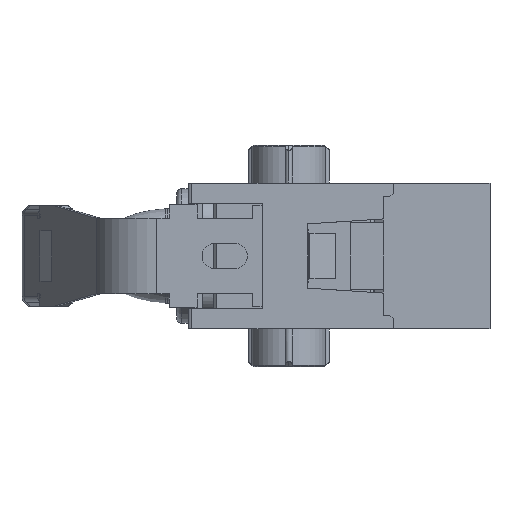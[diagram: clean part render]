
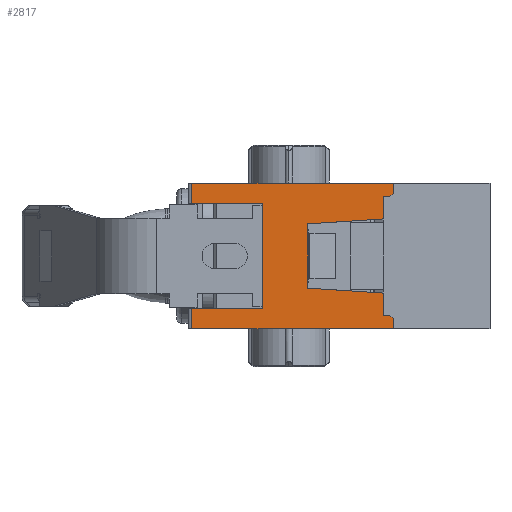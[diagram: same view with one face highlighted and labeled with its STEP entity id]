
A CAD part, left-side view. The second image highlights one B-rep face of the part: STEP entity #2817.
In plain terms, the highlighted planar face has unit normal (-1, 0, 0).
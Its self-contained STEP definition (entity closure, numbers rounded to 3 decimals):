
#71 = DIRECTION ( 'NONE',  ( 0., -0.998, 0.067 ) ) ;
#72 = VECTOR ( 'NONE', #71, 1000. ) ;
#73 = CARTESIAN_POINT ( 'NONE',  ( -6.5, 3.6, 1.275 ) ) ;
#75 = LINE ( 'NONE', #73, #72 ) ;
#210 = CARTESIAN_POINT ( 'NONE',  ( -6.5, 3.6, -1.275 ) ) ;
#211 = DIRECTION ( 'NONE',  ( 0., 0.998, 0.067 ) ) ;
#212 = VECTOR ( 'NONE', #211, 1000. ) ;
#213 = CARTESIAN_POINT ( 'NONE',  ( -6.5, 0.6, -1.475 ) ) ;
#214 = LINE ( 'NONE', #213, #212 ) ;
#308 = FACE_OUTER_BOUND ( 'NONE', #2769, .T. ) ;
#438 = DIRECTION ( 'NONE',  ( 0., 0., -1. ) ) ;
#439 = VECTOR ( 'NONE', #438, 1000. ) ;
#441 = CARTESIAN_POINT ( 'NONE',  ( -6.5, 8.205, 2.9 ) ) ;
#442 = LINE ( 'NONE', #441, #439 ) ;
#455 = LINE ( 'NONE', #590, #588 ) ;
#459 = CARTESIAN_POINT ( 'NONE',  ( -6.5, 8.205, 2.095 ) ) ;
#461 = DIRECTION ( 'NONE',  ( 0., 0., -1. ) ) ;
#462 = VECTOR ( 'NONE', #461, 1000. ) ;
#463 = CARTESIAN_POINT ( 'NONE',  ( -6.5, 8.205, 2.9 ) ) ;
#464 = LINE ( 'NONE', #463, #462 ) ;
#469 = CARTESIAN_POINT ( 'NONE',  ( -6.5, 3.6, 1.275 ) ) ;
#470 = DIRECTION ( 'NONE',  ( 0., 0., 1. ) ) ;
#472 = VECTOR ( 'NONE', #470, 1000. ) ;
#474 = CARTESIAN_POINT ( 'NONE',  ( -6.5, 3.6, -2.352 ) ) ;
#476 = LINE ( 'NONE', #474, #472 ) ;
#512 = DIRECTION ( 'NONE',  ( 0., 0., -1. ) ) ;
#513 = DIRECTION ( 'NONE',  ( 1., 0., 0. ) ) ;
#514 = CARTESIAN_POINT ( 'NONE',  ( -6.5, 8.355, 2.9 ) ) ;
#515 = AXIS2_PLACEMENT_3D ( 'NONE', #514, #513, #512 ) ;
#522 = PLANE ( 'NONE',  #515 ) ;
#572 = CARTESIAN_POINT ( 'NONE',  ( -6.5, 8.205, -2.095 ) ) ;
#573 = DIRECTION ( 'NONE',  ( 0., -1., 0. ) ) ;
#574 = VECTOR ( 'NONE', #573, 1000. ) ;
#575 = CARTESIAN_POINT ( 'NONE',  ( -6.5, 8.355, -2.095 ) ) ;
#576 = LINE ( 'NONE', #575, #574 ) ;
#579 = CARTESIAN_POINT ( 'NONE',  ( -6.5, 5.39, -2.095 ) ) ;
#580 = DIRECTION ( 'NONE',  ( 0., 0., -1. ) ) ;
#582 = VECTOR ( 'NONE', #580, 1000. ) ;
#583 = CARTESIAN_POINT ( 'NONE',  ( -6.5, 5.39, -2.095 ) ) ;
#584 = LINE ( 'NONE', #583, #582 ) ;
#586 = CARTESIAN_POINT ( 'NONE',  ( -6.5, 5.39, 2.095 ) ) ;
#587 = DIRECTION ( 'NONE',  ( 0., 1., 0. ) ) ;
#588 = VECTOR ( 'NONE', #587, 1000. ) ;
#590 = CARTESIAN_POINT ( 'NONE',  ( -6.5, 8.355, 2.095 ) ) ;
#1679 = EDGE_CURVE ( 'NONE', #1894, #16449, #11904, .T. ) ;
#1894 = VERTEX_POINT ( 'NONE', #11269 ) ;
#2161 = EDGE_CURVE ( 'NONE', #2162, #16041, #8363, .T. ) ;
#2162 = VERTEX_POINT ( 'NONE', #8354 ) ;
#2708 = ORIENTED_EDGE ( 'NONE', *, *, #2709, .T. ) ;
#2709 = EDGE_CURVE ( 'NONE', #2768, #3304, #75, .T. ) ;
#2710 = ORIENTED_EDGE ( 'NONE', *, *, #3420, .T. ) ;
#2711 = ORIENTED_EDGE ( 'NONE', *, *, #15870, .T. ) ;
#2712 = ORIENTED_EDGE ( 'NONE', *, *, #16424, .T. ) ;
#2713 = ORIENTED_EDGE ( 'NONE', *, *, #16451, .T. ) ;
#2756 = ORIENTED_EDGE ( 'NONE', *, *, #2757, .T. ) ;
#2757 = EDGE_CURVE ( 'NONE', #2782, #2162, #442, .T. ) ;
#2758 = ORIENTED_EDGE ( 'NONE', *, *, #2161, .T. ) ;
#2759 = ORIENTED_EDGE ( 'NONE', *, *, #16028, .T. ) ;
#2760 = ORIENTED_EDGE ( 'NONE', *, *, #16007, .T. ) ;
#2761 = ORIENTED_EDGE ( 'NONE', *, *, #16086, .T. ) ;
#2762 = ORIENTED_EDGE ( 'NONE', *, *, #3434, .T. ) ;
#2763 = ORIENTED_EDGE ( 'NONE', *, *, #2764, .T. ) ;
#2764 = EDGE_CURVE ( 'NONE', #3412, #2765, #214, .T. ) ;
#2765 = VERTEX_POINT ( 'NONE', #210 ) ;
#2766 = ORIENTED_EDGE ( 'NONE', *, *, #2767, .T. ) ;
#2767 = EDGE_CURVE ( 'NONE', #2765, #2768, #476, .T. ) ;
#2768 = VERTEX_POINT ( 'NONE', #469 ) ;
#2769 = EDGE_LOOP ( 'NONE', ( #2770, #2771, #2774, #2777, #2780, #2756, #2758, #2759, #2760, #2761, #2762, #2763, #2766, #2708, #2710, #2711, #2712, #2713 ) ) ;
#2770 = ORIENTED_EDGE ( 'NONE', *, *, #1679, .F. ) ;
#2771 = ORIENTED_EDGE ( 'NONE', *, *, #2772, .T. ) ;
#2772 = EDGE_CURVE ( 'NONE', #1894, #2773, #464, .T. ) ;
#2773 = VERTEX_POINT ( 'NONE', #459 ) ;
#2774 = ORIENTED_EDGE ( 'NONE', *, *, #2775, .F. ) ;
#2775 = EDGE_CURVE ( 'NONE', #2776, #2773, #455, .T. ) ;
#2776 = VERTEX_POINT ( 'NONE', #586 ) ;
#2777 = ORIENTED_EDGE ( 'NONE', *, *, #2778, .T. ) ;
#2778 = EDGE_CURVE ( 'NONE', #2776, #2779, #584, .T. ) ;
#2779 = VERTEX_POINT ( 'NONE', #579 ) ;
#2780 = ORIENTED_EDGE ( 'NONE', *, *, #2781, .F. ) ;
#2781 = EDGE_CURVE ( 'NONE', #2782, #2779, #576, .T. ) ;
#2782 = VERTEX_POINT ( 'NONE', #572 ) ;
#2817 = ADVANCED_FACE ( 'NONE', ( #308 ), #522, .F. ) ;
#3304 = VERTEX_POINT ( 'NONE', #4351 ) ;
#3412 = VERTEX_POINT ( 'NONE', #4818 ) ;
#3420 = EDGE_CURVE ( 'NONE', #3304, #15927, #4865, .T. ) ;
#3434 = EDGE_CURVE ( 'NONE', #16084, #3412, #5460, .T. ) ;
#4351 = CARTESIAN_POINT ( 'NONE',  ( -6.5, 0.6, 1.475 ) ) ;
#4818 = CARTESIAN_POINT ( 'NONE',  ( -6.5, 0.6, -1.475 ) ) ;
#4862 = DIRECTION ( 'NONE',  ( 0., 0., 1. ) ) ;
#4863 = VECTOR ( 'NONE', #4862, 1000. ) ;
#4864 = CARTESIAN_POINT ( 'NONE',  ( -6.5, 0.6, 1.475 ) ) ;
#4865 = LINE ( 'NONE', #4864, #4863 ) ;
#5454 = DIRECTION ( 'NONE',  ( 0., 0., 1. ) ) ;
#5456 = VECTOR ( 'NONE', #5454, 1000. ) ;
#5458 = CARTESIAN_POINT ( 'NONE',  ( -6.5, 0.6, -2.352 ) ) ;
#5460 = LINE ( 'NONE', #5458, #5456 ) ;
#8354 = CARTESIAN_POINT ( 'NONE',  ( -6.5, 8.205, -2.9 ) ) ;
#8355 = DIRECTION ( 'NONE',  ( 0., -1., 0. ) ) ;
#8356 = VECTOR ( 'NONE', #8355, 1000. ) ;
#8357 = CARTESIAN_POINT ( 'NONE',  ( -6.5, 8.355, -2.9 ) ) ;
#8363 = LINE ( 'NONE', #8357, #8356 ) ;
#11269 = CARTESIAN_POINT ( 'NONE',  ( -6.5, 8.205, 2.9 ) ) ;
#11899 = DIRECTION ( 'NONE',  ( 0., -1., 0. ) ) ;
#11901 = VECTOR ( 'NONE', #11899, 1000. ) ;
#11903 = CARTESIAN_POINT ( 'NONE',  ( -6.5, 8.355, 2.9 ) ) ;
#11904 = LINE ( 'NONE', #11903, #11901 ) ;
#13809 = DIRECTION ( 'NONE',  ( 0., -1., 0. ) ) ;
#13810 = VECTOR ( 'NONE', #13809, 1000. ) ;
#13811 = CARTESIAN_POINT ( 'NONE',  ( -6.5, 7.77, 2.353 ) ) ;
#13812 = LINE ( 'NONE', #13811, #13810 ) ;
#13912 = CARTESIAN_POINT ( 'NONE',  ( -6.5, 0.35, 2.352 ) ) ;
#14220 = CARTESIAN_POINT ( 'NONE',  ( -6.5, 0.6, 2.352 ) ) ;
#14310 = CARTESIAN_POINT ( 'NONE',  ( -6.5, 0.2, -2.502 ) ) ;
#14311 = DIRECTION ( 'NONE',  ( 0., 0.707, 0.707 ) ) ;
#14312 = VECTOR ( 'NONE', #14311, 1000. ) ;
#14313 = CARTESIAN_POINT ( 'NONE',  ( -6.5, 0.2, -2.502 ) ) ;
#14314 = LINE ( 'NONE', #14313, #14312 ) ;
#14321 = DIRECTION ( 'NONE',  ( 0., 0., 1. ) ) ;
#14322 = VECTOR ( 'NONE', #14321, 1000. ) ;
#14323 = CARTESIAN_POINT ( 'NONE',  ( -6.5, 0.2, -2.502 ) ) ;
#14324 = LINE ( 'NONE', #14323, #14322 ) ;
#14370 = CARTESIAN_POINT ( 'NONE',  ( -6.5, 0.2, -2.9 ) ) ;
#15330 = DIRECTION ( 'NONE',  ( 0., -0.707, 0.707 ) ) ;
#15331 = VECTOR ( 'NONE', #15330, 1000. ) ;
#15332 = CARTESIAN_POINT ( 'NONE',  ( -6.5, 0.2, 2.502 ) ) ;
#15333 = LINE ( 'NONE', #15332, #15331 ) ;
#15335 = CARTESIAN_POINT ( 'NONE',  ( -6.5, 0.2, 2.502 ) ) ;
#15525 = DIRECTION ( 'NONE',  ( 0., 0., 1. ) ) ;
#15526 = VECTOR ( 'NONE', #15525, 1000. ) ;
#15527 = CARTESIAN_POINT ( 'NONE',  ( -6.5, 0.2, 2.502 ) ) ;
#15528 = LINE ( 'NONE', #15527, #15526 ) ;
#15530 = CARTESIAN_POINT ( 'NONE',  ( -6.5, 0.2, 2.9 ) ) ;
#15707 = LINE ( 'NONE', #15773, #15772 ) ;
#15709 = CARTESIAN_POINT ( 'NONE',  ( -6.5, 0.35, -2.352 ) ) ;
#15742 = CARTESIAN_POINT ( 'NONE',  ( -6.5, 0.6, -2.352 ) ) ;
#15771 = DIRECTION ( 'NONE',  ( 0., 1., 0. ) ) ;
#15772 = VECTOR ( 'NONE', #15771, 1000. ) ;
#15773 = CARTESIAN_POINT ( 'NONE',  ( -6.5, 7.77, -2.353 ) ) ;
#15860 = VERTEX_POINT ( 'NONE', #13912 ) ;
#15870 = EDGE_CURVE ( 'NONE', #15927, #15860, #13812, .T. ) ;
#15927 = VERTEX_POINT ( 'NONE', #14220 ) ;
#16007 = EDGE_CURVE ( 'NONE', #16012, #16087, #14314, .T. ) ;
#16012 = VERTEX_POINT ( 'NONE', #14310 ) ;
#16028 = EDGE_CURVE ( 'NONE', #16041, #16012, #14324, .T. ) ;
#16041 = VERTEX_POINT ( 'NONE', #14370 ) ;
#16084 = VERTEX_POINT ( 'NONE', #15742 ) ;
#16086 = EDGE_CURVE ( 'NONE', #16087, #16084, #15707, .T. ) ;
#16087 = VERTEX_POINT ( 'NONE', #15709 ) ;
#16423 = VERTEX_POINT ( 'NONE', #15335 ) ;
#16424 = EDGE_CURVE ( 'NONE', #15860, #16423, #15333, .T. ) ;
#16449 = VERTEX_POINT ( 'NONE', #15530 ) ;
#16451 = EDGE_CURVE ( 'NONE', #16423, #16449, #15528, .T. ) ;
